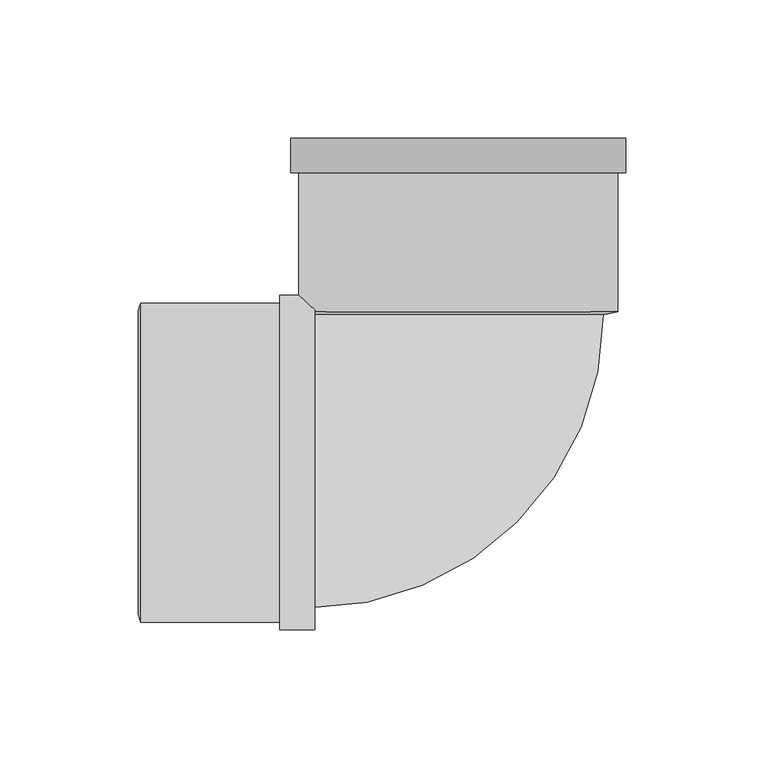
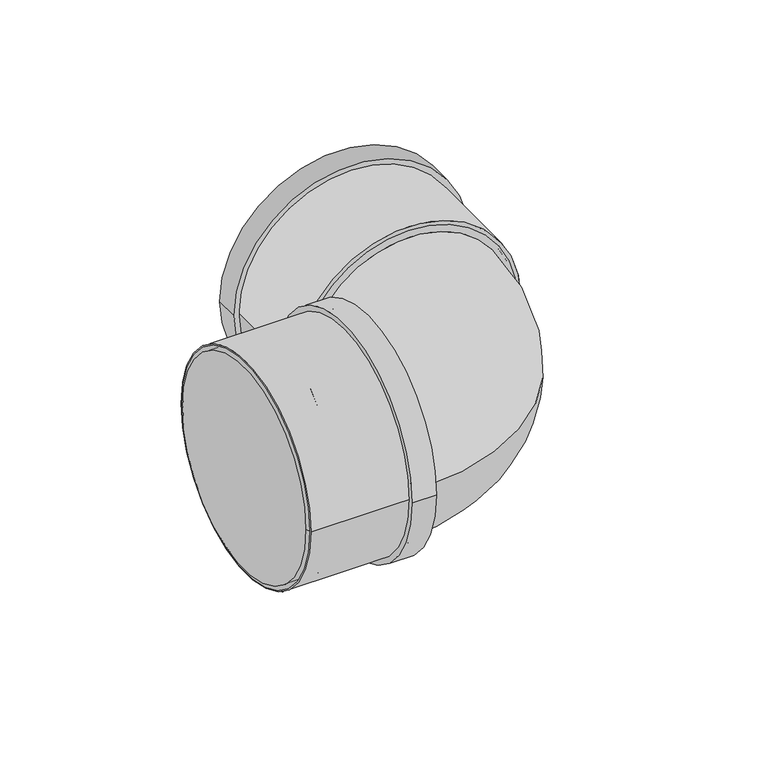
"""IFC4 building model written with IfcOpenShell, lengths in millimetres: pipe fitting geometry, Superdrain HT Bend Composite 2x45 : Superdrain HT Bend Composite 2x45."""

from ifc_helpers import new_model, si_unit, point, frame, origin, origin_2d, place, context, project, spatial, polyline, circle_curve, ellipse_curve, trimmed, segment, composite_curve, outline, extrude, source, transform, mapped, element, save
from ifc_brep_helpers import plane_surface, revolved_surface, advanced_brep


def pipe_fitting_81b5d95a(model_context):
    return source(origin(), model_context, "Body", "SolidModel", [
        extrude(outline(composite_curve([segment(trimmed(circle_curve(origin_2d(), 57.75), [point((57.75, 0.0))], [point((-57.75, 0.0))], False, "CARTESIAN"), True, "CONTINUOUS"), segment(trimmed(circle_curve(origin_2d(), 57.75), [point((-57.75, 0.0))], [point((57.75, 0.0))], False, "CARTESIAN"), True, "CONTINUOUS")], self_intersect=False), holes=[composite_curve([segment(trimmed(circle_curve(origin_2d(), 55.0), [point((55.0, 0.0))], [point((-55.0, 0.0))], True, "CARTESIAN"), True, "CONTINUOUS"), segment(trimmed(circle_curve(origin_2d(), 55.0), [point((-55.0, 0.0))], [point((55.0, 0.0))], True, "CARTESIAN"), True, "CONTINUOUS")], self_intersect=False)]), frame((-115.0, 0.0, 0.0), z_axis=(1.0, 0.0, 0.0), x_axis=(0.0, 1.0, 0.0)), (0.0, 0.0, 1.0), 63.0),
        extrude(outline(composite_curve([segment(trimmed(circle_curve(origin_2d(), 60.6375), [point((60.6375, 0.0))], [point((-60.6375, 0.0))], False, "CARTESIAN"), True, "CONTINUOUS"), segment(trimmed(circle_curve(origin_2d(), 60.6375), [point((-60.6375, 0.0))], [point((60.6375, 0.0))], False, "CARTESIAN"), True, "CONTINUOUS")], self_intersect=False), holes=[composite_curve([segment(trimmed(circle_curve(origin_2d(), 55.0), [point((55.0, 0.0))], [point((-55.0, 0.0))], True, "CARTESIAN"), True, "CONTINUOUS"), segment(trimmed(circle_curve(origin_2d(), 55.0), [point((-55.0, 0.0))], [point((55.0, 0.0))], True, "CARTESIAN"), True, "CONTINUOUS")], self_intersect=False)]), frame((-64.6, 0.0, 0.0), z_axis=(1.0, 0.0, 0.0), x_axis=(0.0, 1.0, 0.0)), (0.0, 0.0, 1.0), 12.6),
        advanced_brep(
        [(-116.0, 55.0, 0.0), (-116.0, -55.0, 0.0), (-115.0, 57.75, 0.0), (-115.0, -57.75, 0.0)],
        [
            (0, 1, circle_curve(frame((-116.0, 0.0, 0.0), z_axis=(-1.0, 0.0, 0.0), x_axis=(0.0, 1.0, 0.0)), 55.0)),
            (1, 0, circle_curve(frame((-116.0, 0.0, 0.0), z_axis=(-1.0, 0.0, 0.0), x_axis=(0.0, -1.0, 0.0)), 55.0)),
            (2, 3, circle_curve(frame((-115.0, 0.0, 0.0), z_axis=(1.0, 0.0, 0.0), x_axis=(0.0, -1.0, 0.0)), 57.75)),
            (3, 2, circle_curve(frame((-115.0, 0.0, 0.0), z_axis=(1.0, 0.0, 0.0), x_axis=(0.0, 1.0, 0.0)), 57.75)),
            (3, 1),
            (0, 2),
        ],
        [
            plane_surface(frame((-116.0, 0.0, 0.0), z_axis=(-1.0, 0.0, 0.0), x_axis=(0.0, 0.0, -1.0))),
            plane_surface(frame((-115.0, 0.0, 0.0), z_axis=(1.0, 0.0, 0.0), x_axis=(0.0, 0.0, -1.0))),
            revolved_surface(polyline([(-116.0, 55.0, 0.0), (-115.0, 57.75, 0.0)]), (-136.0, 0.0, 0.0), (1.0, 0.0, 0.0)),
            revolved_surface(polyline([(-116.0, -55.0, 0.0), (-115.0, -57.75, 0.0)]), (-136.0, 0.0, 0.0), (1.0, 0.0, 0.0)),
        ],
        [
            (0, [[1, 2]]),
            (1, [[3, 4]]),
            (2, [[-4, 5, -1, 6]]),
            (3, [[-3, -6, -2, -5]]),
        ],
    ),
        advanced_brep(
        [(52.6, 53.6, 0.0), (-52.6, 53.6, 0.0), (-53.6, -52.6, 0.0), (-53.6, 52.6, 0.0)],
        [
            (0, 1, circle_curve(frame((0.0, 53.6, 0.0), z_axis=(0.0, 1.0, 0.0), x_axis=(-1.0, 0.0, 0.0)), 52.6)),
            (1, 0, circle_curve(frame((0.0, 53.6, 0.0), z_axis=(0.0, 1.0, 0.0), x_axis=(-1.0, 0.0, 0.0)), 52.6)),
            (2, 3, circle_curve(frame((-53.6, 0.0, 0.0), z_axis=(-1.0, 0.0, 0.0), x_axis=(0.0, 1.0, 0.0)), 52.6)),
            (3, 2, circle_curve(frame((-53.6, 0.0, 0.0), z_axis=(-1.0, 0.0, 0.0), x_axis=(0.0, 1.0, 0.0)), 52.6)),
            (3, 1, circle_curve(frame((-53.6, 53.6, 0.0), z_axis=(0.0, 0.0, 1.0), x_axis=(1.0, 0.0, 0.0)), 1.0)),
            (0, 2, circle_curve(frame((-53.6, 53.6, 0.0), z_axis=(0.0, 0.0, -1.0), x_axis=(1.0, 0.0, 0.0)), 106.2)),
        ],
        [
            plane_surface(frame((0.0, 53.6, 0.0), z_axis=(0.0, 1.0, 0.0), x_axis=(0.0, 0.0, -1.0))),
            plane_surface(frame((-53.6, 0.0, 0.0), z_axis=(-1.0, 0.0, 0.0), x_axis=(0.0, 0.0, -1.0))),
            revolved_surface(trimmed(ellipse_curve(frame((0.0, 53.6, 0.0), z_axis=(0.0, -1.0, 0.0), x_axis=(-1.0, 0.0, 0.0)), 52.6, 52.6), [point((-52.6, 53.6, 0.0))], [point((52.6, 53.6, 0.0))], True, "CARTESIAN"), (-53.6, 53.6, 0.0), (0.0, 0.0, 1.0)),
            revolved_surface(trimmed(ellipse_curve(frame((0.0, 53.6, 0.0), z_axis=(0.0, -1.0, 0.0), x_axis=(-1.0, 0.0, 0.0)), 52.6, 52.6), [point((52.6, 53.6, 0.0))], [point((-52.6, 53.6, 0.0))], True, "CARTESIAN"), (-53.6, 53.6, 0.0), (0.0, 0.0, 1.0)),
        ],
        [
            (0, [[1, 2]]),
            (1, [[3, 4]]),
            (2, [[-4, 5, -1, 6]]),
            (3, [[-3, -6, -2, -5]]),
        ],
    ),
        extrude(outline(composite_curve([segment(trimmed(circle_curve(origin_2d(), 57.75), [point((0.0, 57.75))], [point((0.0, -57.75))], False, "CARTESIAN"), True, "CONTINUOUS"), segment(trimmed(circle_curve(origin_2d(), 57.75), [point((0.0, -57.75))], [point((0.0, 57.75))], False, "CARTESIAN"), True, "CONTINUOUS")], self_intersect=False), holes=[composite_curve([segment(trimmed(circle_curve(origin_2d(), 55.0), [point((0.0, 55.0))], [point((0.0, -55.0))], True, "CARTESIAN"), True, "CONTINUOUS"), segment(trimmed(circle_curve(origin_2d(), 55.0), [point((0.0, -55.0))], [point((0.0, 55.0))], True, "CARTESIAN"), True, "CONTINUOUS")], self_intersect=False)]), frame((0.0, 54.6, 0.0), z_axis=(0.0, 1.0, 0.0), x_axis=(0.0, 0.0, 1.0)), (0.0, 0.0, 1.0), 63.0),
        extrude(outline(composite_curve([segment(trimmed(circle_curve(origin_2d(), 60.6375), [point((0.0, -60.6375))], [point((0.0, 60.6375))], False, "CARTESIAN"), True, "CONTINUOUS"), segment(trimmed(circle_curve(origin_2d(), 60.6375), [point((0.0, 60.6375))], [point((0.0, -60.6375))], False, "CARTESIAN"), True, "CONTINUOUS")], self_intersect=False), holes=[composite_curve([segment(trimmed(circle_curve(origin_2d(), 55.0), [point((0.0, -55.0))], [point((0.0, 55.0))], True, "CARTESIAN"), True, "CONTINUOUS"), segment(trimmed(circle_curve(origin_2d(), 55.0), [point((0.0, 55.0))], [point((0.0, -55.0))], True, "CARTESIAN"), True, "CONTINUOUS")], self_intersect=False)]), frame((0.0, 105.0, 0.0), z_axis=(0.0, 1.0, 0.0), x_axis=(0.0, 0.0, 1.0)), (0.0, 0.0, 1.0), 12.6),
        advanced_brep(
        [(57.75, 54.6, 0.0), (-57.75, 54.6, 0.0), (52.6, 53.6, 0.0), (-52.6, 53.6, 0.0)],
        [
            (0, 1, circle_curve(frame((0.0, 54.6, 0.0), z_axis=(0.0, 1.0, 0.0), x_axis=(1.0, 0.0, 0.0)), 57.75)),
            (1, 0, circle_curve(frame((0.0, 54.6, 0.0), z_axis=(0.0, 1.0, 0.0), x_axis=(-1.0, 0.0, 0.0)), 57.75)),
            (2, 3, circle_curve(frame((0.0, 53.6, 0.0), z_axis=(0.0, -1.0, 0.0), x_axis=(-1.0, 0.0, 0.0)), 52.6)),
            (3, 2, circle_curve(frame((0.0, 53.6, 0.0), z_axis=(0.0, -1.0, 0.0), x_axis=(1.0, 0.0, 0.0)), 52.6)),
            (3, 1),
            (0, 2),
        ],
        [
            plane_surface(frame((0.0, 54.6, 0.0), z_axis=(0.0, 1.0, 0.0), x_axis=(0.0, 0.0, -1.0))),
            plane_surface(frame((0.0, 53.6, 0.0), z_axis=(0.0, -1.0, 0.0), x_axis=(0.0, 0.0, -1.0))),
            revolved_surface(polyline([(-52.599999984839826, 53.6, 0.0), (-57.75, 54.6, 0.0)]), (0.0, 43.3864078, 0.0), (0.0, 1.0, 0.0)),
            revolved_surface(polyline([(52.599999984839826, 53.6, 0.0), (57.75, 54.6, 0.0)]), (0.0, 43.3864078, 0.0), (0.0, 1.0, 0.0)),
        ],
        [
            (0, [[1, 2]]),
            (1, [[3, 4]]),
            (2, [[-4, 5, -1, 6]]),
            (3, [[-3, -6, -2, -5]]),
        ],
    ),
        extrude(outline(composite_curve([segment(trimmed(circle_curve(origin_2d(), 55.0), [point((-55.0, 0.0))], [point((55.0, 0.0))], False, "CARTESIAN"), True, "CONTINUOUS"), segment(trimmed(circle_curve(origin_2d(), 55.0), [point((55.0, 0.0))], [point((-55.0, 0.0))], False, "CARTESIAN"), True, "CONTINUOUS")], self_intersect=False)), frame((-115.0, 0.0, 0.0), z_axis=(1.0, 0.0, 0.0), x_axis=(0.0, 1.0, 0.0)), (0.0, 0.0, 1.0), 61.4),
    ])


if __name__ == "__main__":
    model = new_model("IFC4")
    model_context = context("Model", 3, world=origin())
    ifc_project = project(units=[si_unit("LENGTHUNIT", "METRE", prefix="MILLI")], contexts=[model_context])
    site = spatial("IfcSite", under=ifc_project)
    building = spatial("IfcBuilding", under=site)
    placement = place(None, origin())
    pipe_fitting_shape = pipe_fitting_81b5d95a(model_context)
    element("IfcPipeFitting", 1, ObjectType="Superdrain HT Bend Composite 2x45 : Superdrain HT Bend Composite 2x45", at=placement, inside=building, context=model_context, shape_type="MappedRepresentation", body=[
        mapped(pipe_fitting_shape, transform((0.0, 0.0, 0.0), x_axis=(1.0, 0.0, 0.0), y_axis=(0.0, 1.0, 0.0), z_axis=(0.0, 0.0, 1.0))),
    ])
    save(model, "model.ifc")
